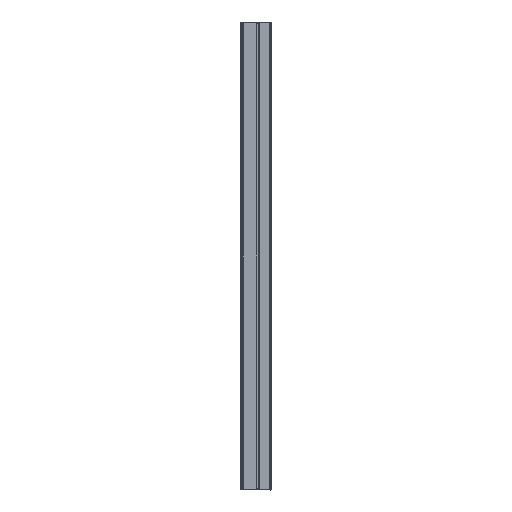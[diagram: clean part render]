
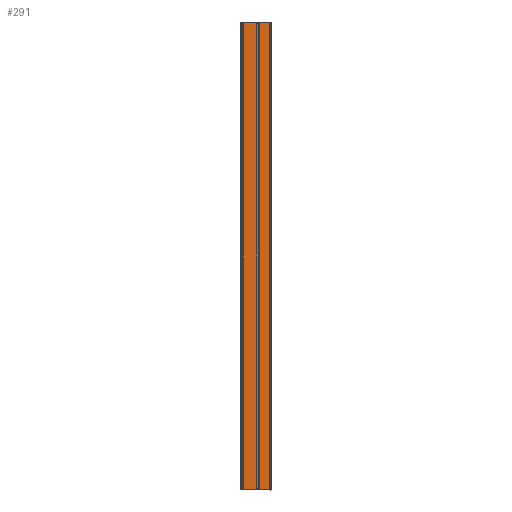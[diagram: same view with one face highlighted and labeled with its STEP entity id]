
A CAD part, left-side view. The second image highlights one B-rep face of the part: STEP entity #291.
In plain terms, the highlighted planar face has unit normal (-1, 0, 0).
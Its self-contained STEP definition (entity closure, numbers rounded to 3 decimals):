
#291=ADVANCED_FACE('',(#1131),#1133,.T.);
#1131=FACE_BOUND('',#1132,.T.);
#1132=EDGE_LOOP('',(#5604,#5605,#5606,#5607));
#1133=PLANE('',#1134);
#1134=AXIS2_PLACEMENT_3D('',#1135,#1136,#1137);
#1135=CARTESIAN_POINT('',(-25.,4.,-535.5));
#1136=DIRECTION('',(-1.,0.,0.));
#1137=DIRECTION('',(0.,-1.,0.));
#5604=ORIENTED_EDGE('',*,*,#8954,.T.);
#5605=ORIENTED_EDGE('',*,*,#9144,.T.);
#5606=ORIENTED_EDGE('',*,*,#9145,.T.);
#5607=ORIENTED_EDGE('',*,*,#9146,.F.);
#8954=EDGE_CURVE('',#10724,#10725,#10726,.F.);
#9144=EDGE_CURVE('',#10725,#11104,#11105,.T.);
#9145=EDGE_CURVE('',#11104,#11106,#11107,.F.);
#9146=EDGE_CURVE('',#10724,#11106,#11108,.T.);
#10724=VERTEX_POINT('',#13678);
#10725=VERTEX_POINT('',#13679);
#10726=LINE('',#13680,#13681);
#11104=VERTEX_POINT('',#14558);
#11105=LINE('',#14559,#14560);
#11106=VERTEX_POINT('',#14562);
#11107=LINE('',#14563,#14564);
#11108=LINE('',#14566,#14567);
#13678=CARTESIAN_POINT('',(-25.,4.,-535.5));
#13679=CARTESIAN_POINT('',(-25.,-63.75,-535.5));
#13680=CARTESIAN_POINT('',(-25.,-63.75,-535.5));
#13681=VECTOR('',#13682,1.);
#13682=DIRECTION('',(0.,1.,0.));
#14558=CARTESIAN_POINT('',(-25.,-63.75,535.5));
#14559=CARTESIAN_POINT('',(-25.,-63.75,-535.5));
#14560=VECTOR('',#14561,1.);
#14561=DIRECTION('',(0.,0.,1.));
#14562=CARTESIAN_POINT('',(-25.,4.,535.5));
#14563=CARTESIAN_POINT('',(-25.,4.,535.5));
#14564=VECTOR('',#14565,1.);
#14565=DIRECTION('',(0.,-1.,0.));
#14566=CARTESIAN_POINT('',(-25.,4.,-535.5));
#14567=VECTOR('',#14568,1.);
#14568=DIRECTION('',(0.,0.,1.));
